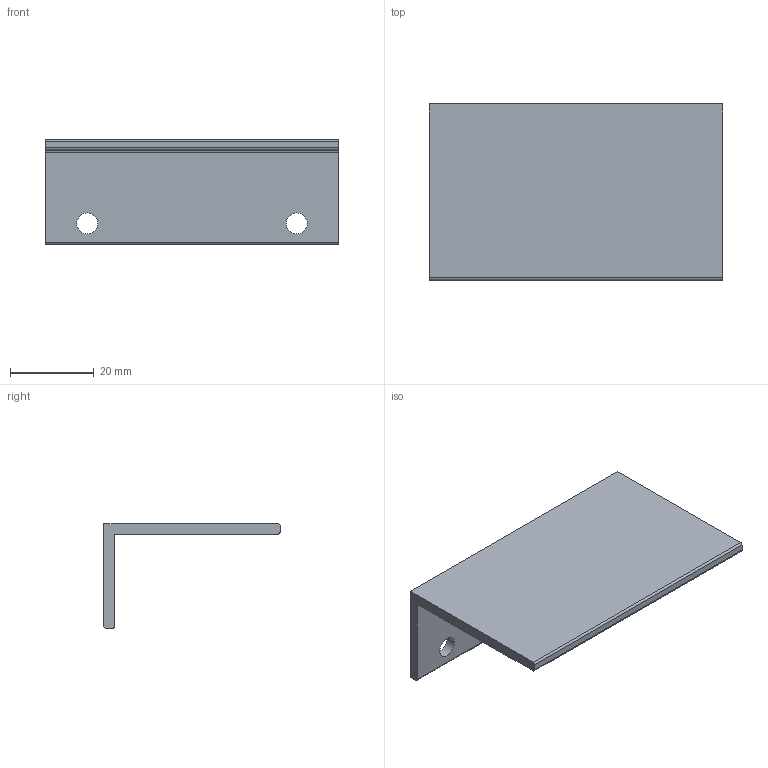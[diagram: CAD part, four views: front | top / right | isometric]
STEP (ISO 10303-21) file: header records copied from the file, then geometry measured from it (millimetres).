
FILE_DESCRIPTION( ( '' ), '1' );
FILE_NAME( 'D:/1.AUTOCAD EXPORT/Group 10/sheet_10_1/ 9070588.stp', '2013-10-21T12:29:27', ( '' ), ( '' ), ' ', ' ', ' ' );
FILE_SCHEMA( ( 'automotive_design' ) );
Length unit declared in the file: millimetre
Products named in the file (1): 1
Bounding box: 70 x 42 x 25 mm (x, y, z)
Volume: 11178.1 mm3; surface area: 9627.1 mm2
Topology: 1 solids, 1 shells, 17 faces, 45 edges, 30 vertices
Faces by surface type: cylinder 9, plane 8
Entity records: 1080 total; most frequent: DIRECTION 99, STYLED_ITEM 93, PRESENTATION_STYLE_ASSIGNMENT 93, CARTESIAN_POINT 93, COLOUR_RGB 93, ORIENTED_EDGE 90, EDGE_CURVE 45, CURVE_STYLE 45
